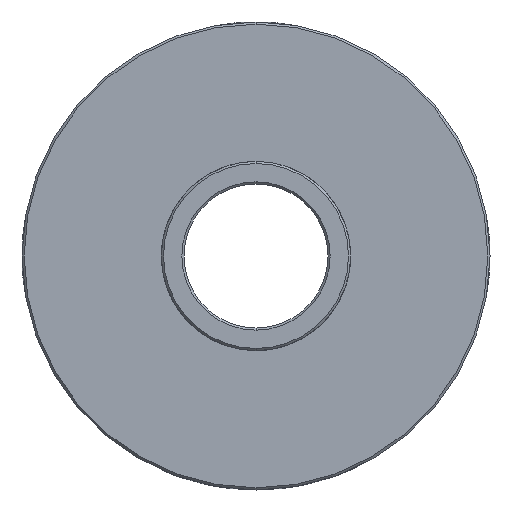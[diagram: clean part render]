
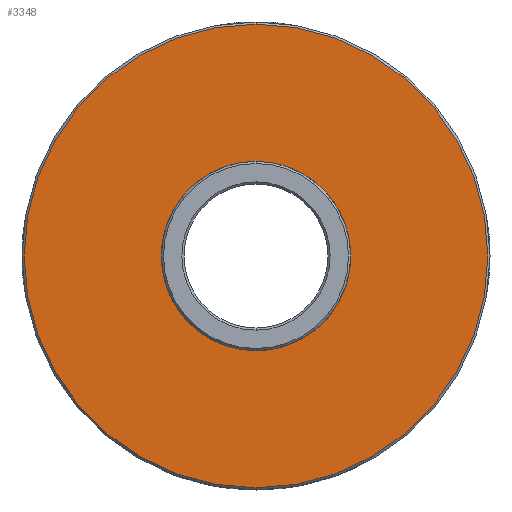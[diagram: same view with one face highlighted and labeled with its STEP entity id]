
A CAD part, front view. The second image highlights one B-rep face of the part: STEP entity #3348.
In plain terms, the highlighted planar face has unit normal (0, -1, 0).
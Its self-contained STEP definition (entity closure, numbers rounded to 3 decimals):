
#4 = DIRECTION ( 'NONE',  ( 0., 0., 1. ) ) ;
#328 = EDGE_LOOP ( 'NONE', ( #1886, #4839 ) ) ;
#1264 = AXIS2_PLACEMENT_3D ( 'NONE', #6160, #8444, #9554 ) ;
#1781 = AXIS2_PLACEMENT_3D ( 'NONE', #2301, #7601, #4165 ) ;
#1812 = EDGE_LOOP ( 'NONE', ( #5052, #5852 ) ) ;
#1886 = ORIENTED_EDGE ( 'NONE', *, *, #8737, .F. ) ;
#2301 = CARTESIAN_POINT ( 'NONE',  ( 0., 0., 0. ) ) ;
#2792 = FACE_BOUND ( 'NONE', #328, .T. ) ;
#2898 = CARTESIAN_POINT ( 'NONE',  ( 0., 0., -32.2 ) ) ;
#3046 = CIRCLE ( 'NONE', #8882, 32.2 ) ;
#3301 = DIRECTION ( 'NONE',  ( 0., -1., 0. ) ) ;
#3348 = ADVANCED_FACE ( 'NONE', ( #10392, #2792 ), #8498, .F. ) ;
#3616 = VERTEX_POINT ( 'NONE', #2898 ) ;
#3877 = EDGE_CURVE ( 'NONE', #3616, #5501, #3046, .T. ) ;
#4019 = EDGE_CURVE ( 'NONE', #7828, #4219, #7996, .T. ) ;
#4094 = AXIS2_PLACEMENT_3D ( 'NONE', #8512, #5952, #10847 ) ;
#4165 = DIRECTION ( 'NONE',  ( 0., 0., -1. ) ) ;
#4219 = VERTEX_POINT ( 'NONE', #9656 ) ;
#4303 = DIRECTION ( 'NONE',  ( 0., -1., 0. ) ) ;
#4550 = DIRECTION ( 'NONE',  ( 0., 0., 1. ) ) ;
#4607 = CARTESIAN_POINT ( 'NONE',  ( 0., 0., 0. ) ) ;
#4839 = ORIENTED_EDGE ( 'NONE', *, *, #4019, .F. ) ;
#5052 = ORIENTED_EDGE ( 'NONE', *, *, #6439, .T. ) ;
#5501 = VERTEX_POINT ( 'NONE', #10713 ) ;
#5852 = ORIENTED_EDGE ( 'NONE', *, *, #3877, .T. ) ;
#5952 = DIRECTION ( 'NONE',  ( 0., -1., 0. ) ) ;
#6160 = CARTESIAN_POINT ( 'NONE',  ( 0., 0., 0. ) ) ;
#6439 = EDGE_CURVE ( 'NONE', #5501, #3616, #8359, .T. ) ;
#6715 = CARTESIAN_POINT ( 'NONE',  ( 0., 0., 0. ) ) ;
#6888 = CIRCLE ( 'NONE', #1781, 12.25 ) ;
#7601 = DIRECTION ( 'NONE',  ( 0., -1., 0. ) ) ;
#7828 = VERTEX_POINT ( 'NONE', #7905 ) ;
#7905 = CARTESIAN_POINT ( 'NONE',  ( 0., 0., -12.25 ) ) ;
#7996 = CIRCLE ( 'NONE', #4094, 12.25 ) ;
#8359 = CIRCLE ( 'NONE', #9076, 32.2 ) ;
#8444 = DIRECTION ( 'NONE',  ( 0., 1., 0. ) ) ;
#8498 = PLANE ( 'NONE',  #1264 ) ;
#8512 = CARTESIAN_POINT ( 'NONE',  ( 0., 0., 0. ) ) ;
#8737 = EDGE_CURVE ( 'NONE', #4219, #7828, #6888, .T. ) ;
#8882 = AXIS2_PLACEMENT_3D ( 'NONE', #6715, #3301, #4 ) ;
#9076 = AXIS2_PLACEMENT_3D ( 'NONE', #4607, #4303, #4550 ) ;
#9554 = DIRECTION ( 'NONE',  ( 0., 0., 1. ) ) ;
#9656 = CARTESIAN_POINT ( 'NONE',  ( 0., 0., 12.25 ) ) ;
#10392 = FACE_OUTER_BOUND ( 'NONE', #1812, .T. ) ;
#10713 = CARTESIAN_POINT ( 'NONE',  ( 0., 0., 32.2 ) ) ;
#10847 = DIRECTION ( 'NONE',  ( 0., 0., -1. ) ) ;
